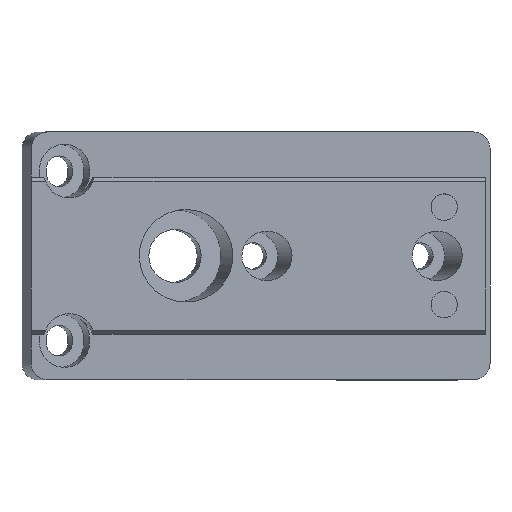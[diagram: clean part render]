
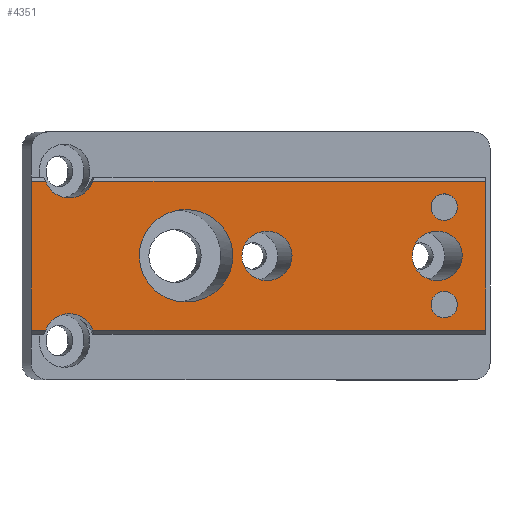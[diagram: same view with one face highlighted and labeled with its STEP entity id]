
A CAD part, top view. The second image highlights one B-rep face of the part: STEP entity #4351.
In plain terms, the highlighted planar face has unit normal (0, 0, 1).
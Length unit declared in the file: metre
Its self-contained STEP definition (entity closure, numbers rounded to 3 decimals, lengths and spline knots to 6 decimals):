
#246=ELLIPSE('',#4633,0.005655,0.0056);
#247=ELLIPSE('',#4634,0.003029,0.003);
#248=ELLIPSE('',#4635,0.003029,0.003);
#249=ELLIPSE('',#4638,0.003029,0.003);
#250=ELLIPSE('',#4639,0.003029,0.003);
#336=CIRCLE('',#4636,0.0016);
#337=CIRCLE('',#4637,0.0016);
#443=ORIENTED_EDGE('',*,*,#1773,.T.);
#444=ORIENTED_EDGE('',*,*,#1774,.T.);
#445=ORIENTED_EDGE('',*,*,#1775,.T.);
#446=ORIENTED_EDGE('',*,*,#1776,.T.);
#447=ORIENTED_EDGE('',*,*,#1777,.T.);
#448=ORIENTED_EDGE('',*,*,#1778,.F.);
#449=ORIENTED_EDGE('',*,*,#1779,.T.);
#450=ORIENTED_EDGE('',*,*,#1780,.F.);
#451=ORIENTED_EDGE('',*,*,#1781,.T.);
#452=ORIENTED_EDGE('',*,*,#1782,.F.);
#453=ORIENTED_EDGE('',*,*,#1783,.T.);
#454=ORIENTED_EDGE('',*,*,#1784,.T.);
#455=ORIENTED_EDGE('',*,*,#1785,.T.);
#1773=EDGE_CURVE('',#2438,#2438,#246,.T.);
#1774=EDGE_CURVE('',#2439,#2439,#247,.T.);
#1775=EDGE_CURVE('',#2440,#2440,#248,.T.);
#1776=EDGE_CURVE('',#2441,#2441,#336,.T.);
#1777=EDGE_CURVE('',#2442,#2442,#337,.T.);
#1778=EDGE_CURVE('',#2443,#2444,#249,.F.);
#1779=EDGE_CURVE('',#2443,#2445,#2867,.T.);
#1780=EDGE_CURVE('',#2446,#2445,#2868,.T.);
#1781=EDGE_CURVE('',#2446,#2447,#2869,.T.);
#1782=EDGE_CURVE('',#2448,#2447,#250,.F.);
#1783=EDGE_CURVE('',#2448,#2449,#2870,.T.);
#1784=EDGE_CURVE('',#2449,#2450,#2871,.T.);
#1785=EDGE_CURVE('',#2450,#2444,#2872,.T.);
#2438=VERTEX_POINT('',#5938);
#2439=VERTEX_POINT('',#5940);
#2440=VERTEX_POINT('',#5942);
#2441=VERTEX_POINT('',#5944);
#2442=VERTEX_POINT('',#5946);
#2443=VERTEX_POINT('',#5948);
#2444=VERTEX_POINT('',#5949);
#2445=VERTEX_POINT('',#5951);
#2446=VERTEX_POINT('',#5953);
#2447=VERTEX_POINT('',#5955);
#2448=VERTEX_POINT('',#5957);
#2449=VERTEX_POINT('',#5959);
#2450=VERTEX_POINT('',#5961);
#2867=LINE('',#5950,#3268);
#2868=LINE('',#5952,#3269);
#2869=LINE('',#5954,#3270);
#2870=LINE('',#5958,#3271);
#2871=LINE('',#5960,#3272);
#2872=LINE('',#5962,#3273);
#3268=VECTOR('',#4971,1.);
#3269=VECTOR('',#4972,1.);
#3270=VECTOR('',#4973,1.);
#3271=VECTOR('',#4976,1.);
#3272=VECTOR('',#4977,1.);
#3273=VECTOR('',#4978,1.);
#3656=EDGE_LOOP('',(#443));
#3657=EDGE_LOOP('',(#444));
#3658=EDGE_LOOP('',(#445));
#3659=EDGE_LOOP('',(#446));
#3660=EDGE_LOOP('',(#447));
#3661=EDGE_LOOP('',(#448,#449,#450,#451,#452,#453,#454,#455));
#3945=FACE_BOUND('',#3656,.T.);
#3946=FACE_BOUND('',#3657,.T.);
#3947=FACE_BOUND('',#3658,.T.);
#3948=FACE_BOUND('',#3659,.T.);
#3949=FACE_BOUND('',#3660,.T.);
#3950=FACE_BOUND('',#3661,.T.);
#4226=PLANE('',#4632);
#4351=ADVANCED_FACE('',(#3945,#3946,#3947,#3948,#3949,#3950),#4226,.F.);
#4632=AXIS2_PLACEMENT_3D('',#5936,#4957,#4958);
#4633=AXIS2_PLACEMENT_3D('',#5937,#4959,#4960);
#4634=AXIS2_PLACEMENT_3D('',#5939,#4961,#4962);
#4635=AXIS2_PLACEMENT_3D('',#5941,#4963,#4964);
#4636=AXIS2_PLACEMENT_3D('',#5943,#4965,#4966);
#4637=AXIS2_PLACEMENT_3D('',#5945,#4967,#4968);
#4638=AXIS2_PLACEMENT_3D('',#5947,#4969,#4970);
#4639=AXIS2_PLACEMENT_3D('',#5956,#4974,#4975);
#4957=DIRECTION('',(0.,0.,-1.));
#4958=DIRECTION('',(-1.,0.,0.));
#4959=DIRECTION('',(0.,0.,-1.));
#4960=DIRECTION('',(-1.,0.,0.));
#4961=DIRECTION('',(0.,0.,-1.));
#4962=DIRECTION('',(-1.,0.,0.));
#4963=DIRECTION('',(0.,0.,-1.));
#4964=DIRECTION('',(-1.,0.,0.));
#4965=DIRECTION('',(0.,0.,-1.));
#4966=DIRECTION('',(-1.,0.,0.));
#4967=DIRECTION('',(0.,0.,-1.));
#4968=DIRECTION('',(-1.,0.,0.));
#4969=DIRECTION('',(0.,0.,-1.));
#4970=DIRECTION('',(-1.,0.,0.));
#4971=DIRECTION('',(1.,0.,0.));
#4972=DIRECTION('',(0.,-1.,0.));
#4973=DIRECTION('',(-1.,0.,0.));
#4974=DIRECTION('',(0.,0.,-1.));
#4975=DIRECTION('',(-1.,0.,0.));
#4976=DIRECTION('',(-1.,0.,0.));
#4977=DIRECTION('',(0.,-1.,0.));
#4978=DIRECTION('',(1.,0.,0.));
#5936=CARTESIAN_POINT('',(0.055,0.,0.0041));
#5937=CARTESIAN_POINT('',(0.018753,0.,0.0041));
#5938=CARTESIAN_POINT('',(0.013098,0.,0.0041));
#5939=CARTESIAN_POINT('',(0.049149,0.,0.0041));
#5940=CARTESIAN_POINT('',(0.046119,0.,0.0041));
#5941=CARTESIAN_POINT('',(0.028548,0.,0.0041));
#5942=CARTESIAN_POINT('',(0.025519,0.,0.0041));
#5943=CARTESIAN_POINT('',(0.05,0.0059,0.0041));
#5944=CARTESIAN_POINT('',(0.0484,0.0059,0.0041));
#5945=CARTESIAN_POINT('',(0.05,-0.0059,0.0041));
#5946=CARTESIAN_POINT('',(0.0484,-0.0059,0.0041));
#5947=CARTESIAN_POINT('',(0.004616,-0.01,0.0041));
#5948=CARTESIAN_POINT('',(0.007473,-0.009004,0.0041));
#5949=CARTESIAN_POINT('',(0.001758,-0.009004,0.0041));
#5950=CARTESIAN_POINT('',(0.055,-0.009004,0.0041));
#5951=CARTESIAN_POINT('',(0.055,-0.009004,0.0041));
#5952=CARTESIAN_POINT('',(0.055,0.,0.0041));
#5953=CARTESIAN_POINT('',(0.055,0.009004,0.0041));
#5954=CARTESIAN_POINT('',(0.,0.009004,0.0041));
#5955=CARTESIAN_POINT('',(0.007473,0.009004,0.0041));
#5956=CARTESIAN_POINT('',(0.004616,0.01,0.0041));
#5957=CARTESIAN_POINT('',(0.001758,0.009004,0.0041));
#5958=CARTESIAN_POINT('',(0.,0.009004,0.0041));
#5959=CARTESIAN_POINT('',(0.,0.009004,0.0041));
#5960=CARTESIAN_POINT('',(0.,0.,0.0041));
#5961=CARTESIAN_POINT('',(0.,-0.009004,0.0041));
#5962=CARTESIAN_POINT('',(0.055,-0.009004,0.0041));
